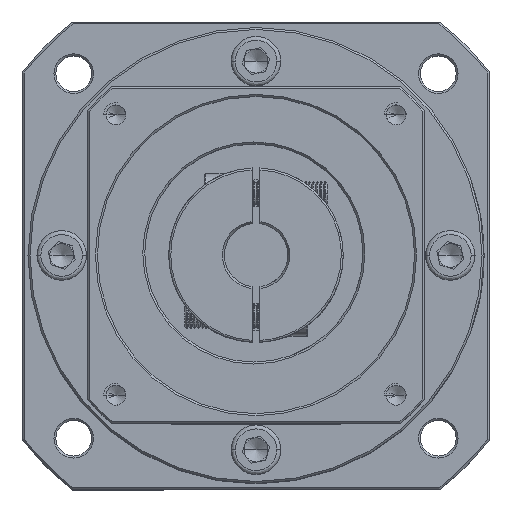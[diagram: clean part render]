
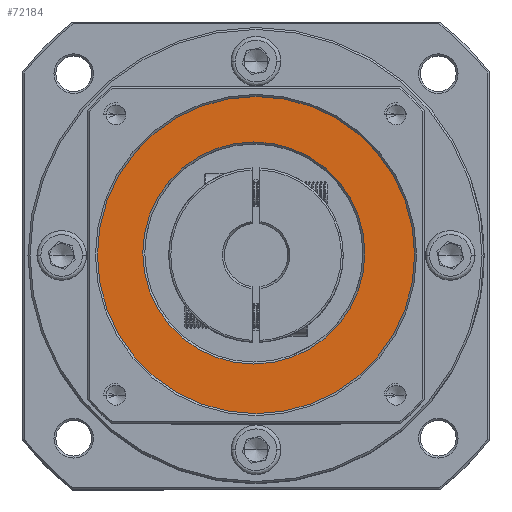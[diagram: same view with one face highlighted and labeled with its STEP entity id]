
A CAD part, top view. The second image highlights one B-rep face of the part: STEP entity #72184.
In plain terms, the highlighted planar face has unit normal (0, 0, 1).
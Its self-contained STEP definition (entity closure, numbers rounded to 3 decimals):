
#2214 = DIRECTION ( 'NONE',  ( 1., 0., 0. ) ) ;
#4190 = DIRECTION ( 'NONE',  ( 0., 0., 1. ) ) ;
#11474 = ORIENTED_EDGE ( 'NONE', *, *, #48264, .T. ) ;
#11906 = ORIENTED_EDGE ( 'NONE', *, *, #23561, .T. ) ;
#15423 = DIRECTION ( 'NONE',  ( 0., 0., 1. ) ) ;
#17975 = AXIS2_PLACEMENT_3D ( 'NONE', #65202, #15423, #73499 ) ;
#19288 = CARTESIAN_POINT ( 'NONE',  ( -116.035, 45.579, 1.149 ) ) ;
#19964 = DIRECTION ( 'NONE',  ( 0., 0., -1. ) ) ;
#20186 = CIRCLE ( 'NONE', #17975, 40. ) ;
#21053 = CARTESIAN_POINT ( 'NONE',  ( -36.035, 45.579, 1.149 ) ) ;
#23561 = EDGE_CURVE ( 'NONE', #81426, #85319, #86336, .T. ) ;
#25922 = EDGE_CURVE ( 'NONE', #85319, #81426, #106316, .T. ) ;
#31299 = CARTESIAN_POINT ( 'NONE',  ( -48.576, 46.113, 1.149 ) ) ;
#31865 = CIRCLE ( 'NONE', #104777, 40. ) ;
#32021 = DIRECTION ( 'NONE',  ( 0., 0., 1. ) ) ;
#33355 = VERTEX_POINT ( 'NONE', #21053 ) ;
#34624 = AXIS2_PLACEMENT_3D ( 'NONE', #54016, #4190, #62368 ) ;
#48264 = EDGE_CURVE ( 'NONE', #33355, #104665, #31865, .T. ) ;
#51756 = CARTESIAN_POINT ( 'NONE',  ( -104.576, 46.113, 1.149 ) ) ;
#52077 = DIRECTION ( 'NONE',  ( 0., 0., -1. ) ) ;
#54016 = CARTESIAN_POINT ( 'NONE',  ( -76.035, 45.579, 1.149 ) ) ;
#55803 = ORIENTED_EDGE ( 'NONE', *, *, #89732, .T. ) ;
#57256 = EDGE_LOOP ( 'NONE', ( #11474, #55803 ) ) ;
#62368 = DIRECTION ( 'NONE',  ( 1., 0., 0. ) ) ;
#65202 = CARTESIAN_POINT ( 'NONE',  ( -76.035, 45.579, 1.149 ) ) ;
#69777 = CARTESIAN_POINT ( 'NONE',  ( -76.576, 46.113, 1.149 ) ) ;
#70377 = PLANE ( 'NONE',  #34624 ) ;
#72184 = ADVANCED_FACE ( 'NONE', ( #73308, #95363 ), #70377, .T. ) ;
#73308 = FACE_OUTER_BOUND ( 'NONE', #57256, .T. ) ;
#73499 = DIRECTION ( 'NONE',  ( 1., 0., 0. ) ) ;
#78025 = DIRECTION ( 'NONE',  ( 1., 0., 0. ) ) ;
#81426 = VERTEX_POINT ( 'NONE', #31299 ) ;
#81760 = CARTESIAN_POINT ( 'NONE',  ( -76.035, 45.579, 1.149 ) ) ;
#85319 = VERTEX_POINT ( 'NONE', #51756 ) ;
#86336 = CIRCLE ( 'NONE', #93277, 28. ) ;
#89732 = EDGE_CURVE ( 'NONE', #104665, #33355, #20186, .T. ) ;
#90094 = DIRECTION ( 'NONE',  ( 1., 0., 0. ) ) ;
#93277 = AXIS2_PLACEMENT_3D ( 'NONE', #69777, #19964, #78025 ) ;
#95317 = ORIENTED_EDGE ( 'NONE', *, *, #25922, .T. ) ;
#95363 = FACE_BOUND ( 'NONE', #106007, .T. ) ;
#99762 = AXIS2_PLACEMENT_3D ( 'NONE', #101646, #52077, #2214 ) ;
#101646 = CARTESIAN_POINT ( 'NONE',  ( -76.576, 46.113, 1.149 ) ) ;
#104665 = VERTEX_POINT ( 'NONE', #19288 ) ;
#104777 = AXIS2_PLACEMENT_3D ( 'NONE', #81760, #32021, #90094 ) ;
#106007 = EDGE_LOOP ( 'NONE', ( #11906, #95317 ) ) ;
#106316 = CIRCLE ( 'NONE', #99762, 28. ) ;
